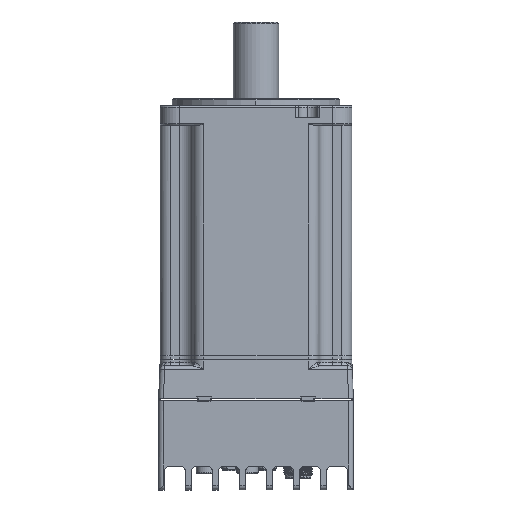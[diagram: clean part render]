
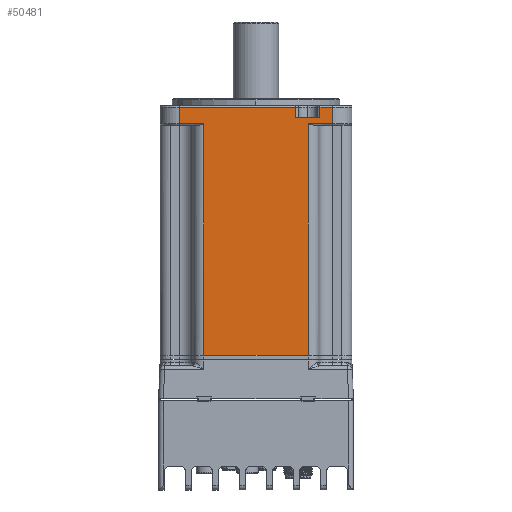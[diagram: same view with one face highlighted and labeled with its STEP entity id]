
A CAD part, front view. The second image highlights one B-rep face of the part: STEP entity #50481.
In plain terms, the highlighted planar face has unit normal (0, -1, 0).
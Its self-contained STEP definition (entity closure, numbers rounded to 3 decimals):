
#507 = VECTOR ( 'NONE', #8070, 1000. ) ;
#674 = CARTESIAN_POINT ( 'NONE',  ( 32., -31.858, 56.51 ) ) ;
#2096 = VECTOR ( 'NONE', #58701, 1000. ) ;
#2531 = LINE ( 'NONE', #15272, #45652 ) ;
#3238 = VERTEX_POINT ( 'NONE', #25998 ) ;
#4626 = CARTESIAN_POINT ( 'NONE',  ( -32., -31.858, 63.51 ) ) ;
#7128 = LINE ( 'NONE', #45774, #76203 ) ;
#7955 = AXIS2_PLACEMENT_3D ( 'NONE', #9916, #36687, #63527 ) ;
#8070 = DIRECTION ( 'NONE',  ( 0., 0., 1. ) ) ;
#8457 = VECTOR ( 'NONE', #32163, 1000. ) ;
#9916 = CARTESIAN_POINT ( 'NONE',  ( 40., -31.858, -39.99 ) ) ;
#11642 = LINE ( 'NONE', #4626, #2096 ) ;
#15272 = CARTESIAN_POINT ( 'NONE',  ( -32., -31.858, 52.51 ) ) ;
#19509 = EDGE_CURVE ( 'NONE', #32797, #53241, #36609, .T. ) ;
#21388 = VECTOR ( 'NONE', #37202, 1000. ) ;
#21679 = CARTESIAN_POINT ( 'NONE',  ( 32., -31.858, 52.51 ) ) ;
#23009 = ORIENTED_EDGE ( 'NONE', *, *, #35859, .T. ) ;
#23047 = EDGE_CURVE ( 'NONE', #32656, #51643, #83797, .T. ) ;
#23655 = VERTEX_POINT ( 'NONE', #38612 ) ;
#23900 = VECTOR ( 'NONE', #63967, 1000. ) ;
#24262 = EDGE_CURVE ( 'NONE', #64472, #41004, #11642, .T. ) ;
#24635 = ORIENTED_EDGE ( 'NONE', *, *, #56449, .T. ) ;
#25583 = DIRECTION ( 'NONE',  ( 1., 0., 0. ) ) ;
#25998 = CARTESIAN_POINT ( 'NONE',  ( -21.75, -31.858, -39.99 ) ) ;
#26953 = DIRECTION ( 'NONE',  ( 1., 0., 0. ) ) ;
#28649 = VERTEX_POINT ( 'NONE', #49853 ) ;
#29766 = DIRECTION ( 'NONE',  ( 0., 0., -1. ) ) ;
#30562 = VECTOR ( 'NONE', #64927, 1000. ) ;
#31286 = ORIENTED_EDGE ( 'NONE', *, *, #74573, .T. ) ;
#32163 = DIRECTION ( 'NONE',  ( 0., 0., 1. ) ) ;
#32656 = VERTEX_POINT ( 'NONE', #57863 ) ;
#32704 = ORIENTED_EDGE ( 'NONE', *, *, #23047, .T. ) ;
#32722 = EDGE_CURVE ( 'NONE', #67725, #67421, #66632, .T. ) ;
#32797 = VERTEX_POINT ( 'NONE', #674 ) ;
#34628 = ORIENTED_EDGE ( 'NONE', *, *, #32722, .T. ) ;
#35859 = EDGE_CURVE ( 'NONE', #67421, #32797, #84154, .T. ) ;
#36609 = LINE ( 'NONE', #21679, #507 ) ;
#36687 = DIRECTION ( 'NONE',  ( 0., 1., 0. ) ) ;
#36973 = LINE ( 'NONE', #66006, #8457 ) ;
#37202 = DIRECTION ( 'NONE',  ( 0., 0., -1. ) ) ;
#37629 = CARTESIAN_POINT ( 'NONE',  ( 40., -31.858, -39.99 ) ) ;
#38612 = CARTESIAN_POINT ( 'NONE',  ( -32., -31.858, 56.51 ) ) ;
#39137 = ORIENTED_EDGE ( 'NONE', *, *, #24262, .T. ) ;
#40076 = CARTESIAN_POINT ( 'NONE',  ( 16.684, -31.858, 59.01 ) ) ;
#40931 = ORIENTED_EDGE ( 'NONE', *, *, #78429, .T. ) ;
#41004 = VERTEX_POINT ( 'NONE', #81647 ) ;
#43251 = PLANE ( 'NONE',  #7955 ) ;
#45031 = CARTESIAN_POINT ( 'NONE',  ( 26.684, -31.858, 63.51 ) ) ;
#45652 = VECTOR ( 'NONE', #29766, 1000. ) ;
#45774 = CARTESIAN_POINT ( 'NONE',  ( 40., -31.858, 56.51 ) ) ;
#45825 = EDGE_CURVE ( 'NONE', #53241, #32656, #59141, .T. ) ;
#49853 = CARTESIAN_POINT ( 'NONE',  ( -21.75, -31.858, 56.51 ) ) ;
#50481 = ADVANCED_FACE ( 'NONE', ( #56084 ), #43251, .F. ) ;
#50724 = DIRECTION ( 'NONE',  ( 1., 0., 0. ) ) ;
#51436 = VECTOR ( 'NONE', #55152, 1000. ) ;
#51643 = VERTEX_POINT ( 'NONE', #76386 ) ;
#52009 = LINE ( 'NONE', #65696, #63868 ) ;
#53241 = VERTEX_POINT ( 'NONE', #85369 ) ;
#53380 = DIRECTION ( 'NONE',  ( -1., 0., 0. ) ) ;
#55152 = DIRECTION ( 'NONE',  ( 0., 0., 1. ) ) ;
#56084 = FACE_OUTER_BOUND ( 'NONE', #85492, .T. ) ;
#56284 = VERTEX_POINT ( 'NONE', #40076 ) ;
#56449 = EDGE_CURVE ( 'NONE', #56284, #64472, #36973, .T. ) ;
#56949 = LINE ( 'NONE', #83690, #23900 ) ;
#57863 = CARTESIAN_POINT ( 'NONE',  ( 26.684, -31.858, 63.51 ) ) ;
#58421 = EDGE_CURVE ( 'NONE', #23655, #28649, #7128, .T. ) ;
#58701 = DIRECTION ( 'NONE',  ( -1., 0., 0. ) ) ;
#59141 = LINE ( 'NONE', #45031, #77168 ) ;
#60288 = EDGE_CURVE ( 'NONE', #56284, #51643, #52009, .T. ) ;
#63527 = DIRECTION ( 'NONE',  ( 0., 0., 1. ) ) ;
#63868 = VECTOR ( 'NONE', #26953, 1000. ) ;
#63967 = DIRECTION ( 'NONE',  ( 0., 0., -1. ) ) ;
#64472 = VERTEX_POINT ( 'NONE', #72422 ) ;
#64647 = VECTOR ( 'NONE', #50724, 1000. ) ;
#64927 = DIRECTION ( 'NONE',  ( -1., 0., 0. ) ) ;
#65696 = CARTESIAN_POINT ( 'NONE',  ( 40., -31.858, 59.01 ) ) ;
#66006 = CARTESIAN_POINT ( 'NONE',  ( 16.684, -31.858, 52.51 ) ) ;
#66632 = LINE ( 'NONE', #82335, #51436 ) ;
#67421 = VERTEX_POINT ( 'NONE', #75908 ) ;
#67725 = VERTEX_POINT ( 'NONE', #74946 ) ;
#68040 = ORIENTED_EDGE ( 'NONE', *, *, #19509, .T. ) ;
#72422 = CARTESIAN_POINT ( 'NONE',  ( 16.684, -31.858, 63.51 ) ) ;
#73116 = ORIENTED_EDGE ( 'NONE', *, *, #60288, .F. ) ;
#73589 = ORIENTED_EDGE ( 'NONE', *, *, #58421, .T. ) ;
#74573 = EDGE_CURVE ( 'NONE', #41004, #23655, #2531, .T. ) ;
#74946 = CARTESIAN_POINT ( 'NONE',  ( 21.75, -31.858, -39.99 ) ) ;
#75908 = CARTESIAN_POINT ( 'NONE',  ( 21.75, -31.858, 56.51 ) ) ;
#76203 = VECTOR ( 'NONE', #25583, 1000. ) ;
#76269 = CARTESIAN_POINT ( 'NONE',  ( 40., -31.858, 56.51 ) ) ;
#76386 = CARTESIAN_POINT ( 'NONE',  ( 26.684, -31.858, 59.01 ) ) ;
#77168 = VECTOR ( 'NONE', #53380, 1000. ) ;
#78045 = LINE ( 'NONE', #37629, #30562 ) ;
#78429 = EDGE_CURVE ( 'NONE', #28649, #3238, #56949, .T. ) ;
#81647 = CARTESIAN_POINT ( 'NONE',  ( -32., -31.858, 63.51 ) ) ;
#82335 = CARTESIAN_POINT ( 'NONE',  ( 21.75, -31.858, -39.99 ) ) ;
#82499 = CARTESIAN_POINT ( 'NONE',  ( 26.684, -31.858, 52.51 ) ) ;
#83690 = CARTESIAN_POINT ( 'NONE',  ( -21.75, -31.858, -39.99 ) ) ;
#83797 = LINE ( 'NONE', #82499, #21388 ) ;
#84154 = LINE ( 'NONE', #76269, #64647 ) ;
#85047 = ORIENTED_EDGE ( 'NONE', *, *, #86280, .F. ) ;
#85360 = ORIENTED_EDGE ( 'NONE', *, *, #45825, .T. ) ;
#85369 = CARTESIAN_POINT ( 'NONE',  ( 32., -31.858, 63.51 ) ) ;
#85492 = EDGE_LOOP ( 'NONE', ( #85047, #34628, #23009, #68040, #85360, #32704, #73116, #24635, #39137, #31286, #73589, #40931 ) ) ;
#86280 = EDGE_CURVE ( 'NONE', #67725, #3238, #78045, .T. ) ;
